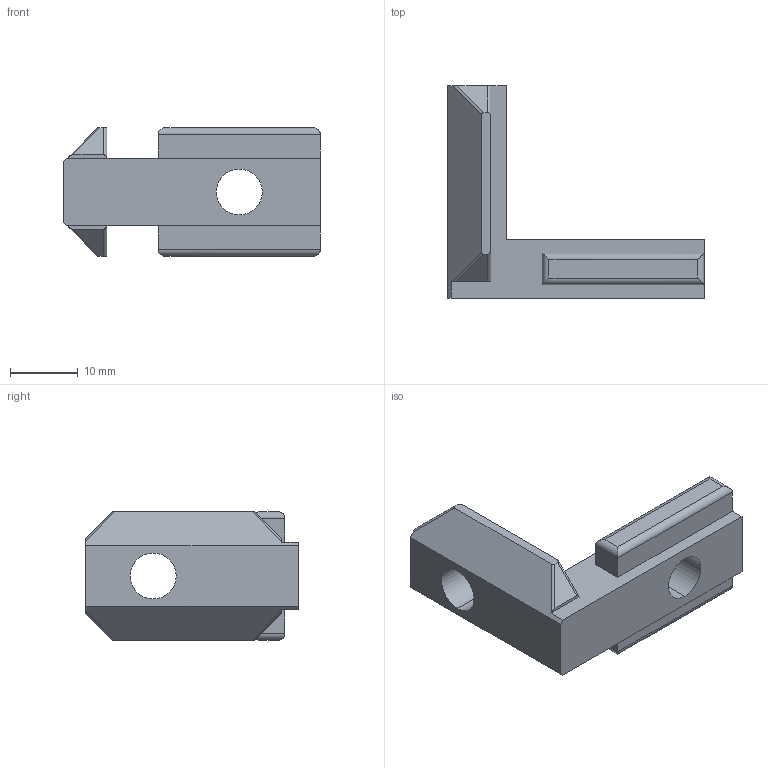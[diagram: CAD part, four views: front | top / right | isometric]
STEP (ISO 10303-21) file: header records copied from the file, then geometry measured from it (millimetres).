
FILE_DESCRIPTION (( 'STEP AP203' ), '1' );
FILE_NAME ('LIMA-IB4545.STEP', '2018-03-15T12:58:51', ( '' ), ( '' ), 'SwSTEP 2.0', 'SolidWorks 2013', '' );
FILE_SCHEMA (( 'CONFIG_CONTROL_DESIGN' ));
Length unit declared in the file: millimetre
Products named in the file (1): LIMA-IB4545
Bounding box: 38 x 31.5 x 19 mm (x, y, z)
Volume: 6504.7 mm3; surface area: 3472.4 mm2
Topology: 1 solids, 1 shells, 48 faces, 130 edges, 84 vertices
Faces by surface type: plane 28, cylinder 20
Entity records: 1563 total; most frequent: CARTESIAN_POINT 347, ORIENTED_EDGE 260, DIRECTION 208, EDGE_CURVE 130, LINE 94, VECTOR 94, VERTEX_POINT 84, AXIS2_PLACEMENT_3D 57
